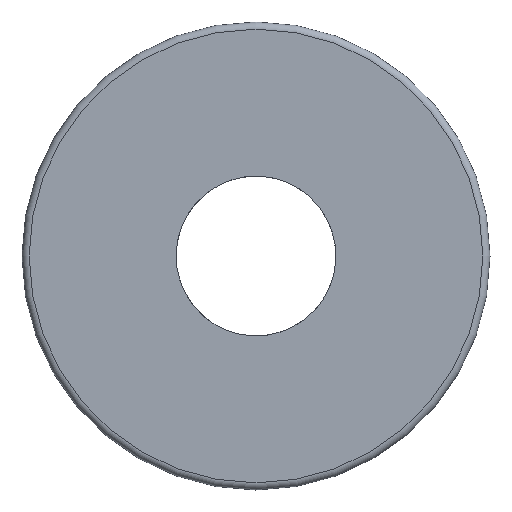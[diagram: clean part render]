
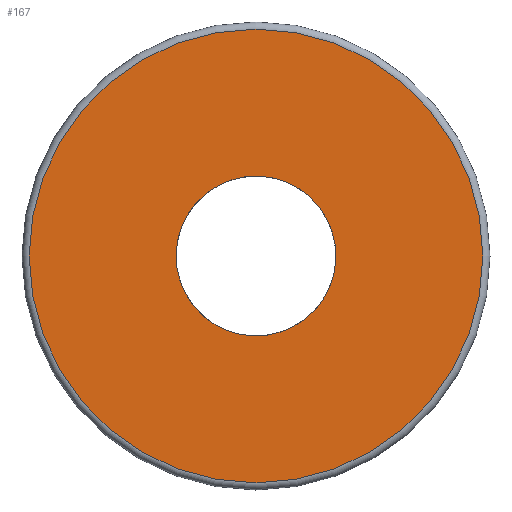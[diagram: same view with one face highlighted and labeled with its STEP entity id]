
A CAD part, left-side view. The second image highlights one B-rep face of the part: STEP entity #167.
In plain terms, the highlighted planar face has unit normal (-1, 0, 0).
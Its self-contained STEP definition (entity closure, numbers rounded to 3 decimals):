
#104=CARTESIAN_POINT('',(0.,10.984,-1.6));
#105=VERTEX_POINT('',#104);
#106=CARTESIAN_POINT('',(0.,0.0,0.0));
#107=DIRECTION('',(1.0,0.0,0.0));
#108=DIRECTION('',(0.0,0.99,0.144));
#109=AXIS2_PLACEMENT_3D('',#106,#107,#108);
#110=CIRCLE('',#109,11.1);
#111=EDGE_CURVE('',#105,#105,#110,.T.);
#141=CARTESIAN_POINT('',(0.,0.0,31.5));
#142=VERTEX_POINT('',#141);
#143=CARTESIAN_POINT('',(0.,0.0,0.0));
#144=DIRECTION('',(-1.0,0.0,0.0));
#145=DIRECTION('',(0.0,0.0,1.0));
#146=AXIS2_PLACEMENT_3D('',#143,#144,#145);
#147=CIRCLE('',#146,31.5);
#148=EDGE_CURVE('',#142,#142,#147,.T.);
#156=CARTESIAN_POINT('',(0.,0.0,15.75));
#157=DIRECTION('',(-1.0,0.0,0.0));
#158=DIRECTION('',(0.0,0.0,1.0));
#159=AXIS2_PLACEMENT_3D('',#156,#157,#158);
#160=PLANE('',#159);
#161=ORIENTED_EDGE('',*,*,#148,.T.);
#162=EDGE_LOOP('',(#161));
#163=FACE_OUTER_BOUND('',#162,.T.);
#164=ORIENTED_EDGE('',*,*,#111,.T.);
#165=EDGE_LOOP('',(#164));
#166=FACE_BOUND('',#165,.T.);
#167=ADVANCED_FACE('',(#163,#166),#160,.T.);
